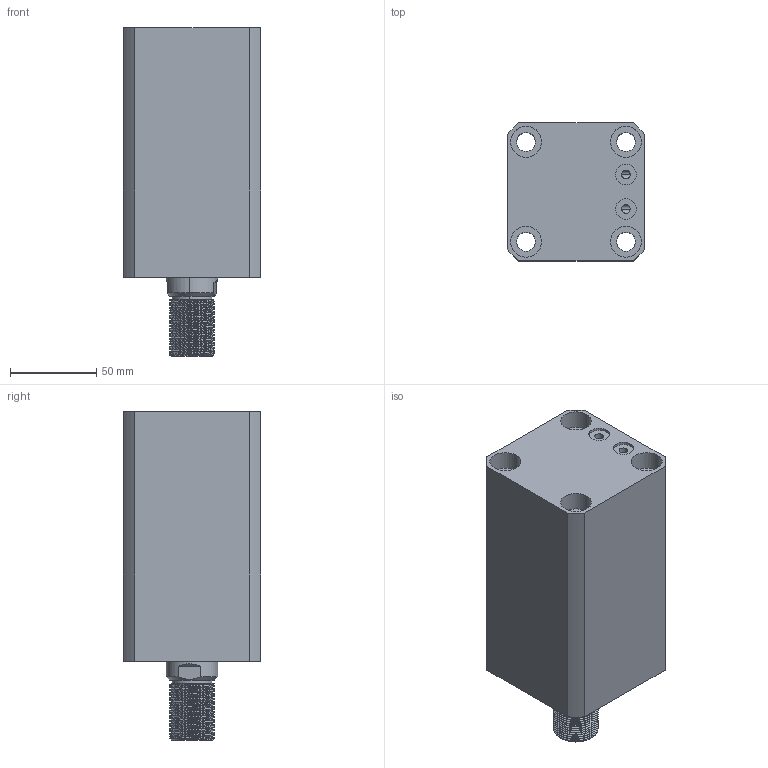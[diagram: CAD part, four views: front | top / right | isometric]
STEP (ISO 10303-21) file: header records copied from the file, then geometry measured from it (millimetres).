
FILE_DESCRIPTION (( 'STEP AP203' ), '1' );
FILE_NAME ('CHTB-SDMB-85W.STEP', '2018-05-19T07:47:26', ( '' ), ( '' ), 'SwSTEP 2.0', 'SolidWorks 2015', '' );
FILE_SCHEMA (( 'CONFIG_CONTROL_DESIGN' ));
Length unit declared in the file: millimetre
Products named in the file (5): CHTB-SDMB-85W; 掛极SDMB50-85W; M6; 活塞杆SDMB50-85W; CHTM-SDMA50QG
Assembly tree (5 placements, depth 2):
  CHTB-SDMB-85W
    掛极SDMB50-85W
    活塞杆SDMB50-85W
    CHTM-SDMA50QG
    M6  x2
Bounding box: 80 x 80 x 191 mm (x, y, z)
Volume: 769345.5 mm3; surface area: 140456.4 mm2
Topology: 5 solids, 5 shells, 305 faces, 821 edges, 547 vertices
Faces by surface type: cylinder 175, plane 57, cone 29, bspline 28, torus 16
Entity records: 17763 total; most frequent: CARTESIAN_POINT 11022, ORIENTED_EDGE 1448, DIRECTION 1131, EDGE_CURVE 724, VERTEX_POINT 486, AXIS2_PLACEMENT_3D 455, EDGE_LOOP 312, ADVANCED_FACE 270
